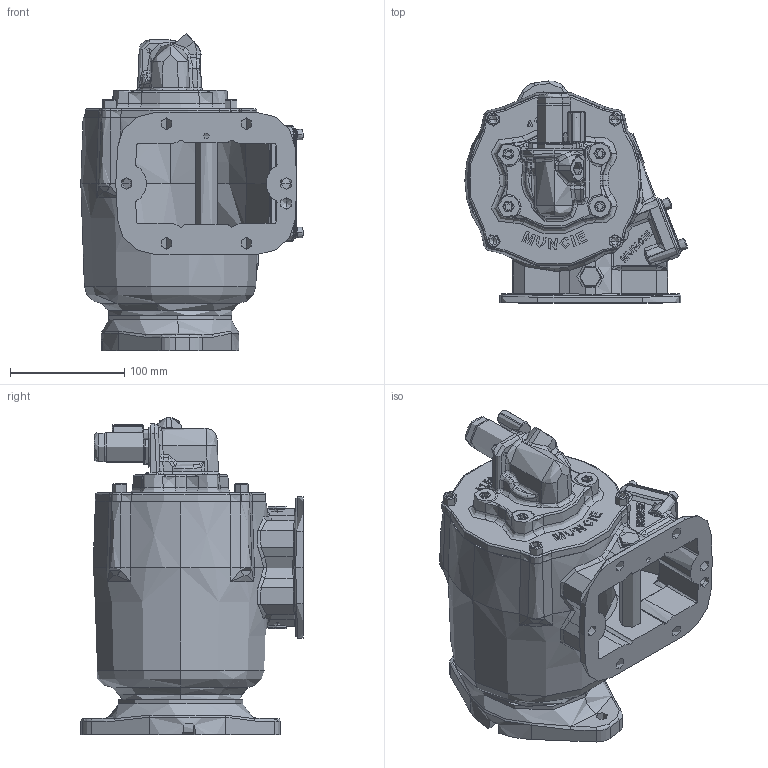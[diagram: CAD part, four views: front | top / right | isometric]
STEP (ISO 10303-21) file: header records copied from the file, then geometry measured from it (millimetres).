
FILE_DESCRIPTION (( 'STEP AP203' ), '1' );
FILE_NAME ('CS6B-I84XX-G1SX.STEP', '2023-05-16T19:04:38', ( '' ), ( '' ), 'SwSTEP 2.0', 'SolidWorks 2021', '' );
FILE_SCHEMA (( 'CONFIG_CONTROL_DESIGN' ));
Length unit declared in the file: inch
Products named in the file (11): 19T35237; 35T40860a; 01t37073a; 25T21684-1; 19T40859; 16T41119; 19T41118; CS6B-I84XX-G1SX; 15T41597; 14T35464; 07T37071
Assembly tree (21 placements, depth 2):
  CS6B-I84XX-G1SX
    01t37073a
    16T41119
    14T35464
    19T41118  x4
    19T35237  x4
    15T41597
    35T40860a
    25T21684-1  x5
    07T37071
    19T40859  x2
Bounding box: 194.82 x 194.67 x 278.15 mm (x, y, z)
Topology: 20 solids, 24 shells, 2264 faces, 5719 edges, 3544 vertices
Faces by surface type: bspline 754, cylinder 573, plane 546, cone 255, torus 127, sphere 9
Entity records: 134333 total; most frequent: CARTESIAN_POINT 89160, ORIENTED_EDGE 10342, DIRECTION 7011, EDGE_CURVE 5173, VERTEX_POINT 3249, AXIS2_PLACEMENT_3D 2602, EDGE_LOOP 2260, FACE_OUTER_BOUND 2051
